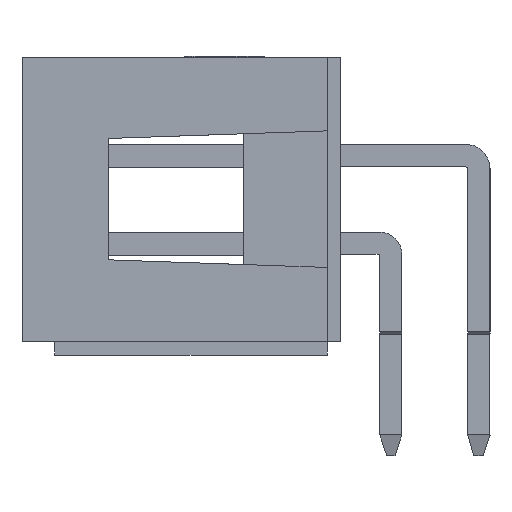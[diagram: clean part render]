
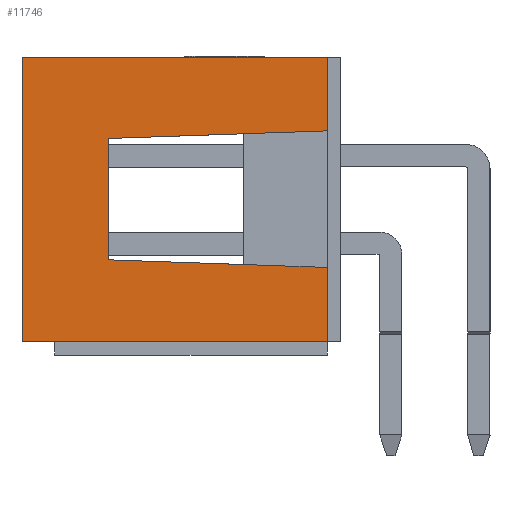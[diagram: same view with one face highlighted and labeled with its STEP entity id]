
A CAD part, left-side view. The second image highlights one B-rep face of the part: STEP entity #11746.
In plain terms, the highlighted planar face has unit normal (-1, 0, 0).
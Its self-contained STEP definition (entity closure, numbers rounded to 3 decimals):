
#1433 = EDGE_LOOP ( 'NONE', ( #32490, #32491, #32492, #32493, #32494, #32495, #32496, #32497, #32498 ) ) ;
#8487 = CARTESIAN_POINT ( 'NONE',  ( -29.188, -3.535, -1.78 ) ) ;
#8488 = CARTESIAN_POINT ( 'NONE',  ( -29.188, -3.535, 2.16 ) ) ;
#8489 = CARTESIAN_POINT ( 'NONE',  ( -29.188, -1.135, -1.696 ) ) ;
#8493 = CARTESIAN_POINT ( 'NONE',  ( -29.188, 2.765, -1.56 ) ) ;
#8494 = CARTESIAN_POINT ( 'NONE',  ( -29.188, 5.265, -3.91 ) ) ;
#8495 = CARTESIAN_POINT ( 'NONE',  ( -29.188, 2.765, 1.94 ) ) ;
#8497 = CARTESIAN_POINT ( 'NONE',  ( -29.188, -3.535, -3.91 ) ) ;
#8498 = CARTESIAN_POINT ( 'NONE',  ( -29.188, -3.535, 4.29 ) ) ;
#8499 = CARTESIAN_POINT ( 'NONE',  ( -29.188, 5.265, 4.29 ) ) ;
#9212 = VERTEX_POINT ( 'NONE', #8487 ) ;
#9213 = VERTEX_POINT ( 'NONE', #8488 ) ;
#9215 = VERTEX_POINT ( 'NONE', #8489 ) ;
#9222 = VERTEX_POINT ( 'NONE', #8493 ) ;
#9224 = VERTEX_POINT ( 'NONE', #8494 ) ;
#9225 = VERTEX_POINT ( 'NONE', #8495 ) ;
#9229 = VERTEX_POINT ( 'NONE', #8497 ) ;
#9231 = VERTEX_POINT ( 'NONE', #8498 ) ;
#9233 = VERTEX_POINT ( 'NONE', #8499 ) ;
#11746 = ADVANCED_FACE ( 'NONE', ( #16792 ), #16777, .T. ) ;
#16777 = PLANE ( 'NONE',  #39377 ) ;
#16792 = FACE_OUTER_BOUND ( 'NONE', #1433, .T. ) ;
#16802 = CARTESIAN_POINT ( 'NONE',  ( -29.188, -3.535, -3.91 ) ) ;
#16803 = DIRECTION ( 'NONE',  ( -1., 0., 0. ) ) ;
#16804 = DIRECTION ( 'NONE',  ( 0., 0., 1. ) ) ;
#18757 = EDGE_CURVE ( 'NONE', #9215, #9222, #30975, .T. ) ;
#18758 = EDGE_CURVE ( 'NONE', #9212, #9215, #30984, .T. ) ;
#18760 = EDGE_CURVE ( 'NONE', #9222, #9225, #31034, .T. ) ;
#18763 = EDGE_CURVE ( 'NONE', #9225, #9213, #31043, .T. ) ;
#18764 = EDGE_CURVE ( 'NONE', #9229, #9212, #31046, .T. ) ;
#18767 = EDGE_CURVE ( 'NONE', #9213, #9231, #31055, .T. ) ;
#18776 = EDGE_CURVE ( 'NONE', #9231, #9233, #31082, .T. ) ;
#18800 = EDGE_CURVE ( 'NONE', #9233, #9224, #31154, .T. ) ;
#18802 = EDGE_CURVE ( 'NONE', #9224, #9229, #31160, .T. ) ;
#27042 = VECTOR ( 'NONE', #31028, 1000. ) ;
#27055 = VECTOR ( 'NONE', #31030, 1000. ) ;
#27058 = VECTOR ( 'NONE', #31036, 1000. ) ;
#27061 = VECTOR ( 'NONE', #31045, 1000. ) ;
#27062 = VECTOR ( 'NONE', #31048, 1000. ) ;
#27065 = VECTOR ( 'NONE', #31057, 1000. ) ;
#27074 = VECTOR ( 'NONE', #31084, 1000. ) ;
#27098 = VECTOR ( 'NONE', #31156, 1000. ) ;
#27100 = VECTOR ( 'NONE', #31162, 1000. ) ;
#30975 = LINE ( 'NONE', #31026, #27042 ) ;
#30984 = LINE ( 'NONE', #31029, #27055 ) ;
#31026 = CARTESIAN_POINT ( 'NONE',  ( -29.188, -1.135, -1.696 ) ) ;
#31028 = DIRECTION ( 'NONE',  ( 0., 0.999, 0.035 ) ) ;
#31029 = CARTESIAN_POINT ( 'NONE',  ( -29.188, -3.535, -1.78 ) ) ;
#31030 = DIRECTION ( 'NONE',  ( 0., 0.999, 0.035 ) ) ;
#31034 = LINE ( 'NONE', #31035, #27058 ) ;
#31035 = CARTESIAN_POINT ( 'NONE',  ( -29.188, 2.765, -3.91 ) ) ;
#31036 = DIRECTION ( 'NONE',  ( 0., 0., 1. ) ) ;
#31043 = LINE ( 'NONE', #31044, #27061 ) ;
#31044 = CARTESIAN_POINT ( 'NONE',  ( -29.188, 2.765, 1.94 ) ) ;
#31045 = DIRECTION ( 'NONE',  ( 0., -0.999, 0.035 ) ) ;
#31046 = LINE ( 'NONE', #31047, #27062 ) ;
#31047 = CARTESIAN_POINT ( 'NONE',  ( -29.188, -3.535, -3.91 ) ) ;
#31048 = DIRECTION ( 'NONE',  ( 0., 0., 1. ) ) ;
#31055 = LINE ( 'NONE', #31056, #27065 ) ;
#31056 = CARTESIAN_POINT ( 'NONE',  ( -29.188, -3.535, -3.91 ) ) ;
#31057 = DIRECTION ( 'NONE',  ( 0., 0., 1. ) ) ;
#31082 = LINE ( 'NONE', #31083, #27074 ) ;
#31083 = CARTESIAN_POINT ( 'NONE',  ( -29.188, -3.535, 4.29 ) ) ;
#31084 = DIRECTION ( 'NONE',  ( 0., 1., 0. ) ) ;
#31154 = LINE ( 'NONE', #31155, #27098 ) ;
#31155 = CARTESIAN_POINT ( 'NONE',  ( -29.188, 5.265, -3.91 ) ) ;
#31156 = DIRECTION ( 'NONE',  ( 0., 0., -1. ) ) ;
#31160 = LINE ( 'NONE', #31161, #27100 ) ;
#31161 = CARTESIAN_POINT ( 'NONE',  ( -29.188, -3.535, -3.91 ) ) ;
#31162 = DIRECTION ( 'NONE',  ( 0., -1., 0. ) ) ;
#32490 = ORIENTED_EDGE ( 'NONE', *, *, #18802, .T. ) ;
#32491 = ORIENTED_EDGE ( 'NONE', *, *, #18764, .T. ) ;
#32492 = ORIENTED_EDGE ( 'NONE', *, *, #18758, .T. ) ;
#32493 = ORIENTED_EDGE ( 'NONE', *, *, #18757, .T. ) ;
#32494 = ORIENTED_EDGE ( 'NONE', *, *, #18760, .T. ) ;
#32495 = ORIENTED_EDGE ( 'NONE', *, *, #18763, .T. ) ;
#32496 = ORIENTED_EDGE ( 'NONE', *, *, #18767, .T. ) ;
#32497 = ORIENTED_EDGE ( 'NONE', *, *, #18776, .T. ) ;
#32498 = ORIENTED_EDGE ( 'NONE', *, *, #18800, .T. ) ;
#39377 = AXIS2_PLACEMENT_3D ( 'NONE', #16802, #16803, #16804 ) ;
